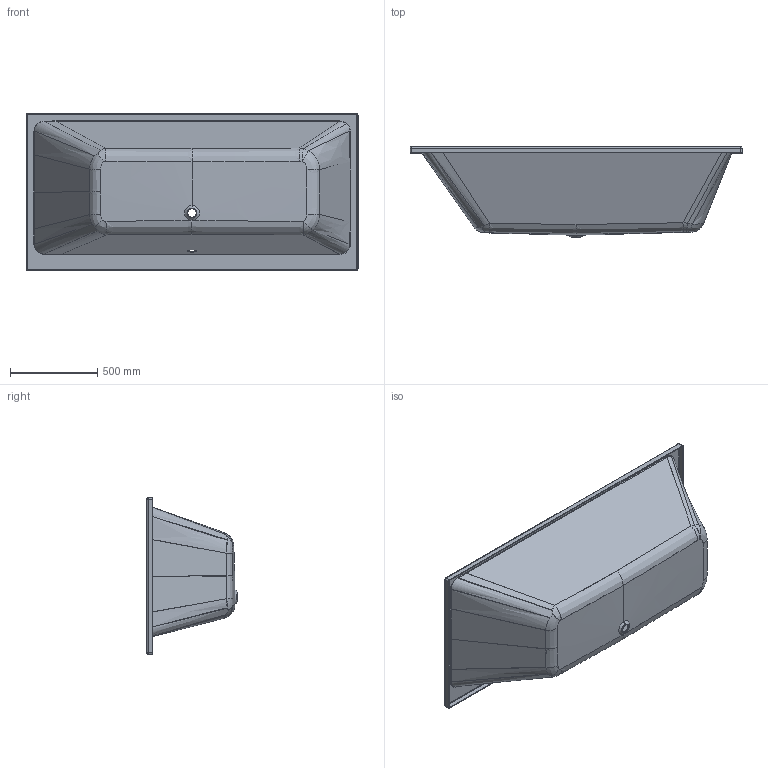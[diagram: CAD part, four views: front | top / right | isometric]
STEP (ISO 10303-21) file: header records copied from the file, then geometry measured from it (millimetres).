
FILE_DESCRIPTION((''),'2;1');
FILE_NAME('UBA199SUB2','2023-11-10T14:38:22',('hegemanc'),('Villeroy & Boch Wellness bv'),'CREO PARAMETRIC BY PTC INC, 2022414','CREO PARAMETRIC BY PTC INC, 2022414','');
FILE_SCHEMA(('AP242_MANAGED_MODEL_BASED_3D_ENGINEERING_MIM_LF { 1 0 10303 442 1 1 4 }'));
Length unit declared in the file: millimetre
Products named in the file (1): UBA199SUB2
Bounding box: 1900 x 518 x 900 mm (x, y, z)
Volume: 16014841.6 mm3; surface area: 6434252.3 mm2
Topology: 1 solids, 1 shells, 151 faces, 383 edges, 248 vertices
Faces by surface type: bspline 110, cylinder 20, plane 13, cone 8
Entity records: 18492 total; most frequent: CARTESIAN_POINT 13812, COLOUR_RGB 1450, ORIENTED_EDGE 704, DIRECTION 407, EDGE_CURVE 352, VERTEX_POINT 206, B_SPLINE_CURVE_WITH_KNOTS 178, AXIS2_PLACEMENT_3D 162
